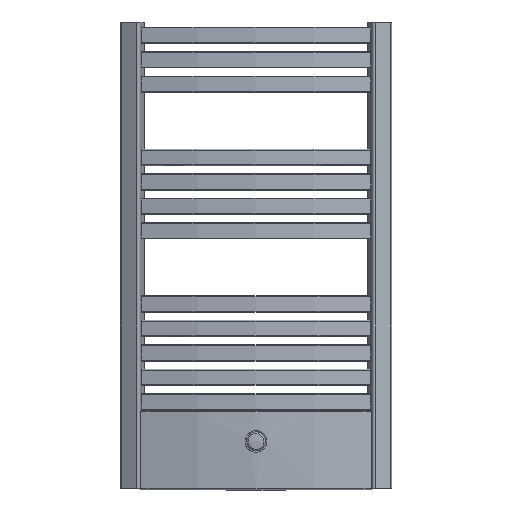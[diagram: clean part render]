
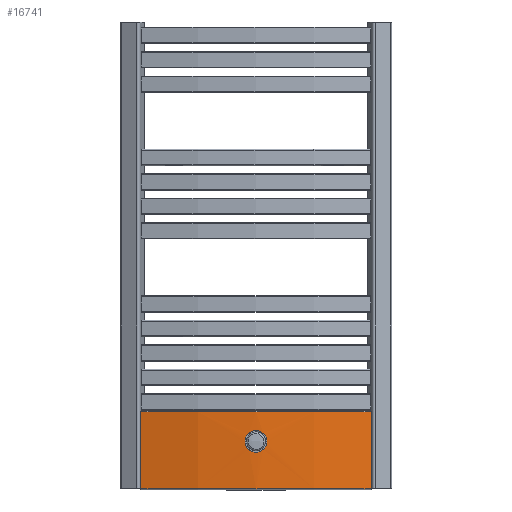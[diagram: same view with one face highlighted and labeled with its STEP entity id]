
A CAD part, front view. The second image highlights one B-rep face of the part: STEP entity #16741.
In plain terms, the highlighted cylindrical face has radius 741 mm (diameter 1482 mm), a partial arc.
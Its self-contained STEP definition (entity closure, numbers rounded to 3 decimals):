
#14347=CARTESIAN_POINT('',(212.002,-31.435,142.));
#14348=VERTEX_POINT('',#14347);
#14511=CARTESIAN_POINT('',(-212.004,-31.435,142.));
#14512=VERTEX_POINT('',#14511);
#14530=CARTESIAN_POINT('',(-212.004,-31.435,0.));
#14531=VERTEX_POINT('',#14530);
#14539=CARTESIAN_POINT('',(-212.004,-31.435,0.));
#14540=DIRECTION('',(0.0,0.0,1.0));
#14541=VECTOR('',#14540,142.0);
#14542=LINE('',#14539,#14541);
#14543=EDGE_CURVE('',#14531,#14512,#14542,.T.);
#14554=CARTESIAN_POINT('',(212.002,-31.435,0.));
#14555=VERTEX_POINT('',#14554);
#14556=CARTESIAN_POINT('',(212.002,-31.435,0.));
#14557=DIRECTION('',(0.0,0.0,1.0));
#14558=VECTOR('',#14557,142.0);
#14559=LINE('',#14556,#14558);
#14560=EDGE_CURVE('',#14555,#14348,#14559,.T.);
#14717=CARTESIAN_POINT('',(0.,678.59,142.));
#14718=DIRECTION('',(0.,0.,1.0));
#14719=DIRECTION('',(0.,-1.,0.));
#14720=AXIS2_PLACEMENT_3D('',#14717,#14718,#14719);
#14721=CIRCLE('',#14720,741.);
#14722=EDGE_CURVE('',#14512,#14348,#14721,.T.);
#14954=CARTESIAN_POINT('',(0.,678.59,0.));
#14955=DIRECTION('',(0.,0.,-1.0));
#14956=DIRECTION('',(0.,-1.,0.));
#14957=AXIS2_PLACEMENT_3D('',#14954,#14955,#14956);
#14958=CIRCLE('',#14957,741.);
#14959=EDGE_CURVE('',#14555,#14531,#14958,.T.);
#16673=CARTESIAN_POINT('',(0.,678.59,0.));
#16674=DIRECTION('',(0.,0.,1.0));
#16675=DIRECTION('',(0.286,-0.958,0.));
#16676=AXIS2_PLACEMENT_3D('',#16673,#16674,#16675);
#16677=CYLINDRICAL_SURFACE('',#16676,741.);
#16678=ORIENTED_EDGE('',*,*,#14959,.F.);
#16679=ORIENTED_EDGE('',*,*,#14560,.T.);
#16680=ORIENTED_EDGE('',*,*,#14722,.F.);
#16681=ORIENTED_EDGE('',*,*,#14543,.F.);
#16682=EDGE_LOOP('',(#16678,#16679,#16680,#16681));
#16683=FACE_OUTER_BOUND('',#16682,.T.);
#16684=CARTESIAN_POINT('',(19.95,-62.141,87.5));
#16685=VERTEX_POINT('',#16684);
#16686=CARTESIAN_POINT('',(19.95,-62.141,87.5));
#16687=CARTESIAN_POINT('',(19.95,-62.141,85.798));
#16688=CARTESIAN_POINT('',(19.73,-62.147,84.061));
#16689=CARTESIAN_POINT('',(18.833,-62.17,80.682));
#16690=CARTESIAN_POINT('',(18.157,-62.188,79.04));
#16691=CARTESIAN_POINT('',(16.399,-62.229,75.993));
#16692=CARTESIAN_POINT('',(15.316,-62.252,74.586));
#16693=CARTESIAN_POINT('',(12.841,-62.299,72.118));
#16694=CARTESIAN_POINT('',(11.448,-62.323,71.058));
#16695=CARTESIAN_POINT('',(8.546,-62.362,69.382));
#16696=CARTESIAN_POINT('',(6.888,-62.38,68.675));
#16697=CARTESIAN_POINT('',(3.439,-62.404,67.75));
#16698=CARTESIAN_POINT('',(1.649,-62.41,67.532));
#16699=CARTESIAN_POINT('',(-1.649,-62.41,67.532));
#16700=CARTESIAN_POINT('',(-3.439,-62.404,67.75));
#16701=CARTESIAN_POINT('',(-6.888,-62.38,68.675));
#16702=CARTESIAN_POINT('',(-8.546,-62.362,69.382));
#16703=CARTESIAN_POINT('',(-11.448,-62.323,71.058));
#16704=CARTESIAN_POINT('',(-12.841,-62.299,72.118));
#16705=CARTESIAN_POINT('',(-15.316,-62.252,74.586));
#16706=CARTESIAN_POINT('',(-16.399,-62.229,75.993));
#16707=CARTESIAN_POINT('',(-18.157,-62.188,79.04));
#16708=CARTESIAN_POINT('',(-18.833,-62.17,80.682));
#16709=CARTESIAN_POINT('',(-19.73,-62.147,84.061));
#16710=CARTESIAN_POINT('',(-19.95,-62.141,85.798));
#16711=CARTESIAN_POINT('',(-19.95,-62.141,89.202));
#16712=CARTESIAN_POINT('',(-19.73,-62.147,90.939));
#16713=CARTESIAN_POINT('',(-18.833,-62.17,94.318));
#16714=CARTESIAN_POINT('',(-18.157,-62.188,95.96));
#16715=CARTESIAN_POINT('',(-16.399,-62.229,99.007));
#16716=CARTESIAN_POINT('',(-15.316,-62.252,100.414));
#16717=CARTESIAN_POINT('',(-12.841,-62.299,102.882));
#16718=CARTESIAN_POINT('',(-11.448,-62.323,103.942));
#16719=CARTESIAN_POINT('',(-8.546,-62.362,105.618));
#16720=CARTESIAN_POINT('',(-6.888,-62.38,106.325));
#16721=CARTESIAN_POINT('',(-3.439,-62.404,107.25));
#16722=CARTESIAN_POINT('',(-1.649,-62.41,107.468));
#16723=CARTESIAN_POINT('',(1.649,-62.41,107.468));
#16724=CARTESIAN_POINT('',(3.439,-62.404,107.25));
#16725=CARTESIAN_POINT('',(6.888,-62.38,106.325));
#16726=CARTESIAN_POINT('',(8.546,-62.362,105.618));
#16727=CARTESIAN_POINT('',(11.448,-62.323,103.942));
#16728=CARTESIAN_POINT('',(12.841,-62.299,102.882));
#16729=CARTESIAN_POINT('',(15.316,-62.252,100.414));
#16730=CARTESIAN_POINT('',(16.399,-62.229,99.007));
#16731=CARTESIAN_POINT('',(18.157,-62.188,95.96));
#16732=CARTESIAN_POINT('',(18.833,-62.17,94.318));
#16733=CARTESIAN_POINT('',(19.73,-62.147,90.939));
#16734=CARTESIAN_POINT('',(19.95,-62.141,89.202));
#16735=CARTESIAN_POINT('',(19.95,-62.141,87.5));
#16736=B_SPLINE_CURVE_WITH_KNOTS('',3,(#16686,#16687,#16688,#16689,#16690,#16691,#16692,#16693,#16694,#16695,#16696,#16697,#16698,#16699,#16700,#16701,#16702,#16703,#16704,#16705,#16706,#16707,#16708,#16709,#16710,#16711,#16712,#16713,#16714,#16715,#16716,#16717,#16718,#16719,#16720,#16721,#16722,#16723,#16724,#16725,#16726,#16727,#16728,#16729,#16730,#16731,#16732,#16733,#16734,#16735),.UNSPECIFIED.,.T.,.U.,(4,2,2,2,2,2,2,2,2,2,2,2,2,2,2,2,2,2,2,2,2,2,2,2,4),(0.0,0.511,1.021,1.532,2.043,2.537,3.032,3.527,4.021,4.532,5.043,5.553,6.064,6.575,7.085,7.596,8.107,8.601,9.096,9.591,10.085,10.596,11.107,11.617,12.128),.UNSPECIFIED.);
#16737=EDGE_CURVE('',#16685,#16685,#16736,.T.);
#16738=ORIENTED_EDGE('',*,*,#16737,.T.);
#16739=EDGE_LOOP('',(#16738));
#16740=FACE_BOUND('',#16739,.T.);
#16741=ADVANCED_FACE('',(#16683,#16740),#16677,.T.);
